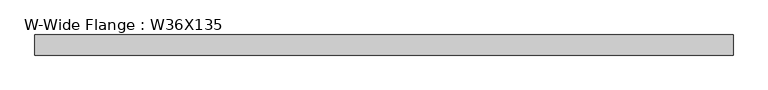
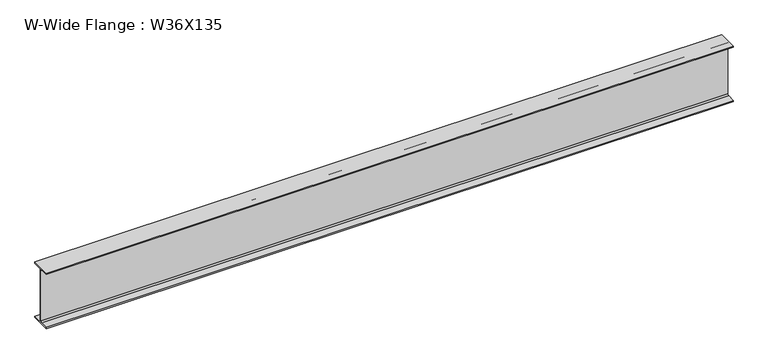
"""IFC4 building model written with IfcOpenShell, lengths in millimetres: beam geometry, W-Wide Flange : W36X135."""

import ifcopenshell
import ifcopenshell.guid

model = None  # the IFC model being written
_history = None  # IfcOwnerHistory: only IFC2X3 demands one
_inside = {}  # id of a spatial element -> (the spatial element, [elements in it])
_under = {}  # id of a project, library or spatial element -> (it, [spatial elements below it])
_declared = {}  # id of a project -> (the project, [libraries it declares])
_typed = {}  # id of a type object -> (the type object, [elements of that type])
_made_of = {}  # id of a material, layer set ... -> (it, [elements and type objects made of it])


def new_model(schema):
    """Start an empty IFC model of exactly this schema.

    Asked for "IFC4X3", IfcOpenShell would pick the latest addendum, in which some entities
    have other attributes; the version numbers below select the first issue.
    IFC2X3 requires an IfcOwnerHistory on every rooted entity: one is made here for all.
    """
    global model, _history
    if schema == "IFC4X3":
        model = ifcopenshell.file(schema_version=(4, 3, 0, 0))
    else:
        model = ifcopenshell.file(schema=schema)
    _inside.clear()
    _under.clear()
    _declared.clear()
    _typed.clear()
    _made_of.clear()
    _history = None
    if model.schema == "IFC2X3":
        org = make("IfcOrganization", Name="unknown")
        user = make(
            "IfcPersonAndOrganization",
            ThePerson=make("IfcPerson", FamilyName="unknown"),
            TheOrganization=org,
        )
        app = make(
            "IfcApplication",
            ApplicationDeveloper=org,
            Version="unknown",
            ApplicationFullName="unknown",
            ApplicationIdentifier="unknown",
        )
        _history = make(
            "IfcOwnerHistory",
            OwningUser=user,
            OwningApplication=app,
            ChangeAction="ADDED",
            CreationDate=0,
        )
    return model


def make(cls, **values):
    """One entity of the class cls with the attributes given. An attribute that is None is left unset."""
    return model.create_entity(
        cls, **{name: value for name, value in values.items() if value is not None}
    )


def rooted(cls, **values):
    """An entity with a GlobalId (a new one), such as an element, a storey or a relation."""
    return make(cls, GlobalId=ifcopenshell.guid.new(), OwnerHistory=_history, **values)


def si_unit(unit_type, name, prefix=None):
    """IfcSIUnit, for example si_unit("LENGTHUNIT", "METRE", prefix="MILLI")."""
    return make("IfcSIUnit", UnitType=unit_type, Prefix=prefix, Name=name)


def assignment(units):
    """IfcUnitAssignment: the units of a project."""
    return None if units is None else make("IfcUnitAssignment", Units=units)


def point(xyz):
    """IfcCartesianPoint."""
    return None if xyz is None else make("IfcCartesianPoint", Coordinates=xyz)


def direction(xyz):
    """IfcDirection."""
    return None if xyz is None else make("IfcDirection", DirectionRatios=xyz)


def frame(location, z_axis=None, x_axis=None):
    """IfcAxis2Placement3D, a coordinate frame: its origin and axes. An axis left out is left unset."""
    return make(
        "IfcAxis2Placement3D",
        Location=point(location),
        Axis=direction(z_axis),
        RefDirection=direction(x_axis),
    )


def frame_2d(location, x_axis=None):
    """IfcAxis2Placement2D, a coordinate frame in the plane: its origin and x axis."""
    return make(
        "IfcAxis2Placement2D", Location=point(location), RefDirection=direction(x_axis)
    )


def origin():
    """The frame at (0, 0, 0) with its axes left unset."""
    return frame((0.0, 0.0, 0.0))


def place(relative_to, where):
    """IfcLocalPlacement: puts the frame where relative to a parent placement (None: the world)."""
    return make(
        "IfcLocalPlacement", PlacementRelTo=relative_to, RelativePlacement=where
    )


def context(
    kind, dimensions, precision=None, world=None, true_north=None, identifier=None
):
    """IfcGeometricRepresentationContext, for example the 3D "Model" context."""
    return make(
        "IfcGeometricRepresentationContext",
        ContextIdentifier=identifier,
        ContextType=kind,
        CoordinateSpaceDimension=dimensions,
        Precision=precision,
        WorldCoordinateSystem=world,
        TrueNorth=true_north,
    )


def project(units=None, contexts=None):
    """IfcProject with its units and contexts."""
    return rooted(
        "IfcProject",
        Name="project",
        RepresentationContexts=contexts,
        UnitsInContext=assignment(units),
    )


def spatial(cls, under=None, at=None, **own):
    """A site, building, storey or space (cls), placed at a placement, below another one or the project."""
    s = rooted(cls, ObjectPlacement=at, **own)
    if under is not None:
        _under.setdefault(under.id(), (under, []))[1].append(s)
    return s


def polyline(points):
    """IfcPolyline through the points."""
    return make("IfcPolyline", Points=[point(p) for p in points])


def circle_curve(where, radius):
    """IfcCircle in the frame where."""
    return make("IfcCircle", Position=where, Radius=radius)


def trimmed(basis, trim1, trim2, sense, master):
    """IfcTrimmedCurve: the piece of a basis curve between two trims."""
    return make(
        "IfcTrimmedCurve",
        BasisCurve=basis,
        Trim1=trim1,
        Trim2=trim2,
        SenseAgreement=sense,
        MasterRepresentation=master,
    )


def segment(curve, same_sense, transition):
    """IfcCompositeCurveSegment."""
    return make(
        "IfcCompositeCurveSegment",
        Transition=transition,
        SameSense=same_sense,
        ParentCurve=curve,
    )


def composite_curve(segments, self_intersect=None):
    """IfcCompositeCurve: segments joined end to end."""
    return make("IfcCompositeCurve", Segments=segments, SelfIntersect=self_intersect)


def outline(outer, holes=None, kind="AREA"):
    """IfcArbitraryClosedProfileDef: a profile drawn as a closed curve; with holes, ...WithVoids."""
    if holes is None:
        return make("IfcArbitraryClosedProfileDef", ProfileType=kind, OuterCurve=outer)
    return make(
        "IfcArbitraryProfileDefWithVoids",
        ProfileType=kind,
        OuterCurve=outer,
        InnerCurves=holes,
    )


def extrude(swept, where, along, depth):
    """IfcExtrudedAreaSolid: the profile swept, set in the frame where, extruded along a direction by depth."""
    return make(
        "IfcExtrudedAreaSolid",
        SweptArea=swept,
        Position=where,
        ExtrudedDirection=direction(along),
        Depth=depth,
    )


def shape(context_of_items, identifier, shape_type, items):
    """IfcShapeRepresentation: the items that make up one representation, for example the "Body"."""
    return make(
        "IfcShapeRepresentation",
        ContextOfItems=context_of_items,
        RepresentationIdentifier=identifier,
        RepresentationType=shape_type,
        Items=items,
    )


def source(mapping_origin, context_of_items, identifier, shape_type, items):
    """IfcRepresentationMap: a shape defined once, which mapped items show again and again."""
    return make(
        "IfcRepresentationMap",
        MappingOrigin=mapping_origin,
        MappedRepresentation=shape(context_of_items, identifier, shape_type, items),
    )


def transform(
    local_origin,
    x_axis=None,
    y_axis=None,
    z_axis=None,
    scale=None,
    scale2=None,
    scale3=None,
    uniform=True,
):
    """IfcCartesianTransformationOperator3D, or its non-uniform kind. x_axis, y_axis, z_axis: its Axis1, 2, 3."""
    if uniform:
        return make(
            "IfcCartesianTransformationOperator3D",
            Axis1=direction(x_axis),
            Axis2=direction(y_axis),
            LocalOrigin=point(local_origin),
            Scale=scale,
            Axis3=direction(z_axis),
        )
    return make(
        "IfcCartesianTransformationOperator3DnonUniform",
        Axis1=direction(x_axis),
        Axis2=direction(y_axis),
        LocalOrigin=point(local_origin),
        Scale=scale,
        Axis3=direction(z_axis),
        Scale2=scale2,
        Scale3=scale3,
    )


def mapped(mapping_source, mapping_target):
    """IfcMappedItem: shows the shape of a source again, moved by a transform."""
    return make(
        "IfcMappedItem", MappingSource=mapping_source, MappingTarget=mapping_target
    )


def made_of(thing, what):
    """Note that an element or type object is made of a material, layer set ...; save() writes the relation."""
    if what is not None:
        _made_of.setdefault(what.id(), (what, []))[1].append(thing)
    return thing


def element(
    cls,
    number,
    at=None,
    inside=None,
    cuts=None,
    type_object=None,
    material=None,
    context=None,
    identifier="Body",
    shape_type=None,
    held_by="IfcProductDefinitionShape",
    body=None,
    shapes=None,
    **own,
):
    """One element of the class cls, such as IfcWall. Its Tag is "e" and its number.

    at: its placement. inside: the storey or other place that contains it. cuts: it is an
    opening in that element (IfcRelVoidsElement). A single representation is given by context,
    identifier, shape_type and body (its items); several are given by shapes. held_by: the class
    of the entity that holds the representations. save() writes the other relations.
    """
    e = rooted(cls, Tag="e%d" % number, ObjectPlacement=at, **own)
    if body is not None:
        shapes = [shape(context, identifier, shape_type, body)]
    if shapes is not None:
        e.Representation = make(held_by, Representations=shapes)
    if inside is not None:
        _inside.setdefault(inside.id(), (inside, []))[1].append(e)
    if cuts is not None:
        rooted(
            "IfcRelVoidsElement", RelatingBuildingElement=cuts, RelatedOpeningElement=e
        )
    if type_object is not None:
        _typed.setdefault(type_object.id(), (type_object, []))[1].append(e)
    return made_of(e, material)


def aggregate(whole, parts):
    """IfcRelAggregates: a whole, such as a stair, and the parts it consists of."""
    return rooted("IfcRelAggregates", RelatingObject=whole, RelatedObjects=parts)


def save(model, path):
    """Write the relations noted so far, then the file.

    IfcRelAggregates (storeys below a building ...), IfcRelContainedInSpatialStructure (elements
    in a storey), IfcRelDefinesByType, IfcRelAssociatesMaterial and IfcRelDeclares: one each for
    every whole, place, type object, material and project.
    """
    for whole, parts in _under.values():
        aggregate(whole, parts)
    for where, things in _inside.values():
        rooted(
            "IfcRelContainedInSpatialStructure",
            RelatedElements=things,
            RelatingStructure=where,
        )
    for kind, things in _typed.values():
        rooted("IfcRelDefinesByType", RelatedObjects=things, RelatingType=kind)
    for what, things in _made_of.values():
        rooted("IfcRelAssociatesMaterial", RelatedObjects=things, RelatingMaterial=what)
    for by, libraries in _declared.values():
        rooted("IfcRelDeclares", RelatingContext=by, RelatedDefinitions=libraries)
    model.write(path)


def w_wide_flange_w36x135_edb61ff3(model_context):
    return source(origin(), model_context, "Body", "SweptSolid", [
        extrude(outline(composite_curve([segment(polyline([(152.4, -432.054), (152.4, -452.12), (-152.4, -452.12), (-152.4, -432.054), (-30.4165, -432.054)]), True, "CONTINUOUS"), segment(trimmed(circle_curve(frame_2d((-30.4165, -409.2575)), 22.7965), [point((-30.4165, -432.054))], [point((-7.62, -409.2575))], True, "CARTESIAN"), True, "CONTINUOUS"), segment(polyline([(-7.62, -409.2575), (-7.62, 409.2575)]), True, "CONTINUOUS"), segment(trimmed(circle_curve(frame_2d((-30.4165, 409.2575)), 22.7965), [point((-7.62, 409.2575))], [point((-30.4165, 432.054))], True, "CARTESIAN"), True, "CONTINUOUS"), segment(polyline([(-30.4165, 432.054), (-152.4, 432.054), (-152.4, 452.12), (152.4, 452.12), (152.4, 432.054), (30.4165, 432.054)]), True, "CONTINUOUS"), segment(trimmed(circle_curve(frame_2d((30.4165, 409.2575)), 22.7965), [point((30.4165, 432.054))], [point((7.62, 409.2575))], True, "CARTESIAN"), True, "CONTINUOUS"), segment(polyline([(7.62, 409.2575), (7.62, -409.2575)]), True, "CONTINUOUS"), segment(trimmed(circle_curve(frame_2d((30.4165, -409.2575)), 22.7965), [point((7.62, -409.2575))], [point((30.4165, -432.054))], True, "CARTESIAN"), True, "CONTINUOUS"), segment(polyline([(30.4165, -432.054), (152.4, -432.054)]), True, "CONTINUOUS")], self_intersect=False)), frame((-5233.2061528, 0.0, 0.0), z_axis=(1.0, 0.0, 0.0), x_axis=(0.0, 1.0, 0.0)), (0.0, 0.0, 1.0), 10580.7095618),
    ])


if __name__ == "__main__":
    model = new_model("IFC4")
    model_context = context("Model", 3, world=origin())
    ifc_project = project(units=[si_unit("LENGTHUNIT", "METRE", prefix="MILLI")], contexts=[model_context])
    site = spatial("IfcSite", under=ifc_project)
    building = spatial("IfcBuilding", under=site)
    placement = place(None, origin())
    w_wide_flange_w36x135_shape = w_wide_flange_w36x135_edb61ff3(model_context)
    element("IfcBeam", 1, ObjectType="W-Wide Flange : W36X135", at=placement, inside=building, context=model_context, shape_type="MappedRepresentation", body=[
        mapped(w_wide_flange_w36x135_shape, transform((0.0, 0.0, 0.0), x_axis=(1.0, 0.0, 0.0), y_axis=(0.0, 1.0, 0.0), z_axis=(0.0, 0.0, 1.0))),
    ])
    save(model, "model.ifc")
